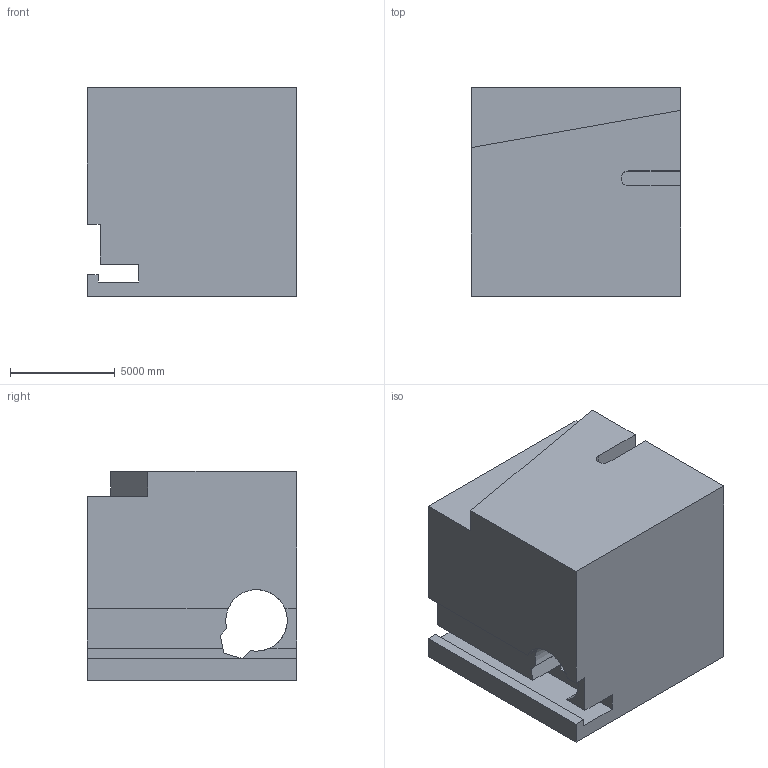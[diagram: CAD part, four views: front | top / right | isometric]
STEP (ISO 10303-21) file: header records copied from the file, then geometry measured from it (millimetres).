
FILE_DESCRIPTION (( 'STEP AP203' ), '1' );
FILE_NAME ('60.STEP', '2022-08-30T14:16:09', ( 'user' ), ( '' ), 'SwSTEP 2.0', 'SolidWorks 2021', '' );
FILE_SCHEMA (( 'CONFIG_CONTROL_DESIGN' ));
Length unit declared in the file: centimetre
Products named in the file (1): 60
Bounding box: 10000 x 10000 x 10000 mm (x, y, z)
Volume: 849024554826 mm3; surface area: 778842494.4 mm2
Topology: 1 solids, 1 shells, 37 faces, 105 edges, 70 vertices
Faces by surface type: plane 33, cylinder 4
Entity records: 1271 total; most frequent: CARTESIAN_POINT 213, ORIENTED_EDGE 210, DIRECTION 192, EDGE_CURVE 105, VECTOR 94, LINE 94, VERTEX_POINT 70, AXIS2_PLACEMENT_3D 49
